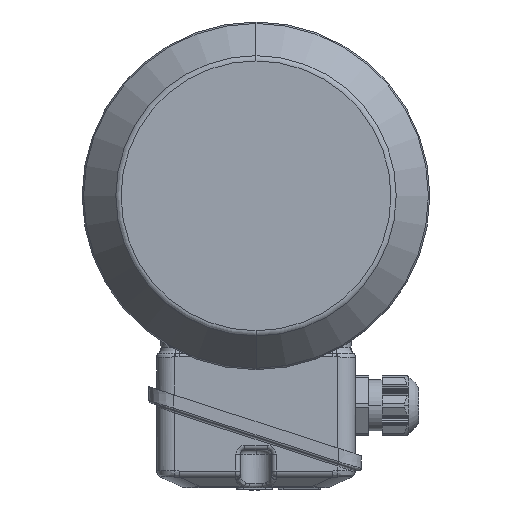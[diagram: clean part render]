
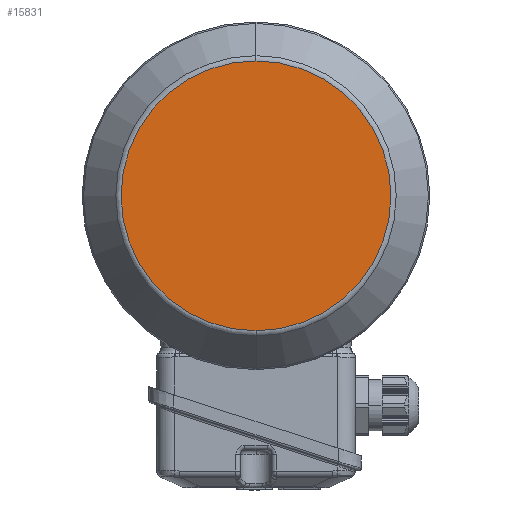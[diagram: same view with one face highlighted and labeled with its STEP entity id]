
A CAD part, left-side view. The second image highlights one B-rep face of the part: STEP entity #15831.
In plain terms, the highlighted planar face has unit normal (-1, 0, 0).
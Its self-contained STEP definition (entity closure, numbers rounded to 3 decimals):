
#187 = CARTESIAN_POINT ( 'NONE',  ( -163.65, 0., -60.537 ) ) ;
#225 = ORIENTED_EDGE ( 'NONE', *, *, #22860, .F. ) ;
#904 = DIRECTION ( 'NONE',  ( 0., 0., -1. ) ) ;
#7270 = ORIENTED_EDGE ( 'NONE', *, *, #18993, .F. ) ;
#9581 = CARTESIAN_POINT ( 'NONE',  ( -163.65, 0., 0. ) ) ;
#15831 = ADVANCED_FACE ( 'NONE', ( #33074 ), #19664, .T. ) ;
#17798 = DIRECTION ( 'NONE',  ( 0., 0., -1. ) ) ;
#18993 = EDGE_CURVE ( 'NONE', #36306, #29680, #21618, .T. ) ;
#19568 = CARTESIAN_POINT ( 'NONE',  ( -163.65, 0., 60.537 ) ) ;
#19664 = PLANE ( 'NONE',  #30170 ) ;
#21618 = CIRCLE ( 'NONE', #22296, 60.537 ) ;
#22279 = DIRECTION ( 'NONE',  ( 0., 1., 0. ) ) ;
#22296 = AXIS2_PLACEMENT_3D ( 'NONE', #9581, #32471, #904 ) ;
#22860 = EDGE_CURVE ( 'NONE', #29680, #36306, #29962, .T. ) ;
#23826 = AXIS2_PLACEMENT_3D ( 'NONE', #29305, #29435, #17798 ) ;
#27893 = CARTESIAN_POINT ( 'NONE',  ( -163.65, 0., -60.537 ) ) ;
#29305 = CARTESIAN_POINT ( 'NONE',  ( -163.65, 0., 0. ) ) ;
#29435 = DIRECTION ( 'NONE',  ( 1., 0., 0. ) ) ;
#29680 = VERTEX_POINT ( 'NONE', #187 ) ;
#29962 = CIRCLE ( 'NONE', #23826, 60.537 ) ;
#30170 = AXIS2_PLACEMENT_3D ( 'NONE', #27893, #34016, #22279 ) ;
#32471 = DIRECTION ( 'NONE',  ( 1., 0., 0. ) ) ;
#33074 = FACE_OUTER_BOUND ( 'NONE', #36408, .T. ) ;
#34016 = DIRECTION ( 'NONE',  ( -1., 0., 0. ) ) ;
#36306 = VERTEX_POINT ( 'NONE', #19568 ) ;
#36408 = EDGE_LOOP ( 'NONE', ( #225, #7270 ) ) ;
